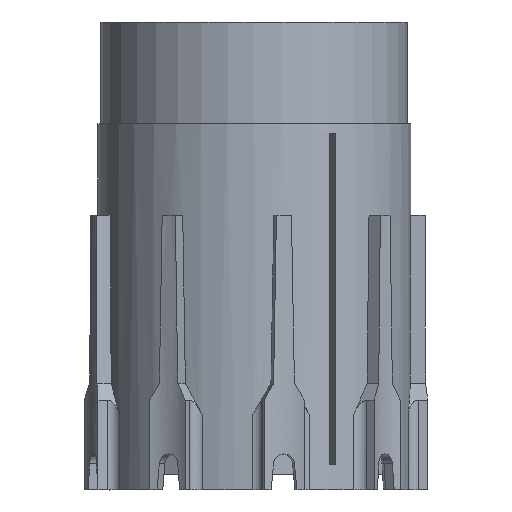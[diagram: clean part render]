
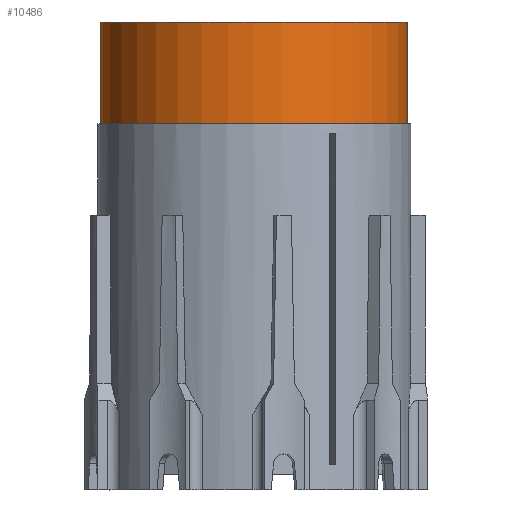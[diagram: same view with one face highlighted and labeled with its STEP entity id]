
A CAD part, front view. The second image highlights one B-rep face of the part: STEP entity #10486.
In plain terms, the highlighted cylindrical face has radius 30.15 mm (diameter 60.3 mm), a full revolution.
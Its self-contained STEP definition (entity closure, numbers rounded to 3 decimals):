
#1572=FACE_OUTER_BOUND('',#2189,.T.);
#2189=EDGE_LOOP('',(#9592,#9593,#9594,#9595));
#2699=CIRCLE('',#11554,30.15);
#2700=CIRCLE('',#11555,30.15);
#3215=LINE('',#26527,#3727);
#3727=VECTOR('',#14154,30.15);
#4841=VERTEX_POINT('',#26524);
#4842=VERTEX_POINT('',#26526);
#6455=EDGE_CURVE('',#4841,#4841,#2699,.T.);
#6456=EDGE_CURVE('',#4841,#4842,#3215,.T.);
#6457=EDGE_CURVE('',#4842,#4842,#2700,.T.);
#9592=ORIENTED_EDGE('',*,*,#6455,.F.);
#9593=ORIENTED_EDGE('',*,*,#6456,.T.);
#9594=ORIENTED_EDGE('',*,*,#6457,.F.);
#9595=ORIENTED_EDGE('',*,*,#6456,.F.);
#9881=CYLINDRICAL_SURFACE('',#11553,30.15);
#10486=ADVANCED_FACE('',(#1572),#9881,.T.);
#11553=AXIS2_PLACEMENT_3D('',#26523,#14150,#14151);
#11554=AXIS2_PLACEMENT_3D('',#26525,#14152,#14153);
#11555=AXIS2_PLACEMENT_3D('',#26528,#14155,#14156);
#14150=DIRECTION('center_axis',(0.,0.,1.));
#14151=DIRECTION('ref_axis',(1.,0.,0.));
#14152=DIRECTION('center_axis',(0.,0.,1.));
#14153=DIRECTION('ref_axis',(1.,0.,0.));
#14154=DIRECTION('',(0.,0.,-1.));
#14155=DIRECTION('center_axis',(0.,0.,-1.));
#14156=DIRECTION('ref_axis',(1.,0.,0.));
#26523=CARTESIAN_POINT('Origin',(0.,0.,46.));
#26524=CARTESIAN_POINT('',(-30.15,0.,92.));
#26525=CARTESIAN_POINT('Origin',(0.,0.,92.));
#26526=CARTESIAN_POINT('',(-30.15,0.,72.));
#26527=CARTESIAN_POINT('',(-30.15,0.,46.));
#26528=CARTESIAN_POINT('Origin',(0.,0.,72.));
